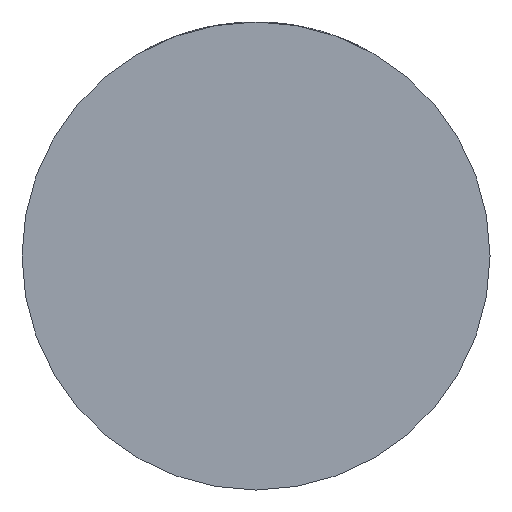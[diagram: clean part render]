
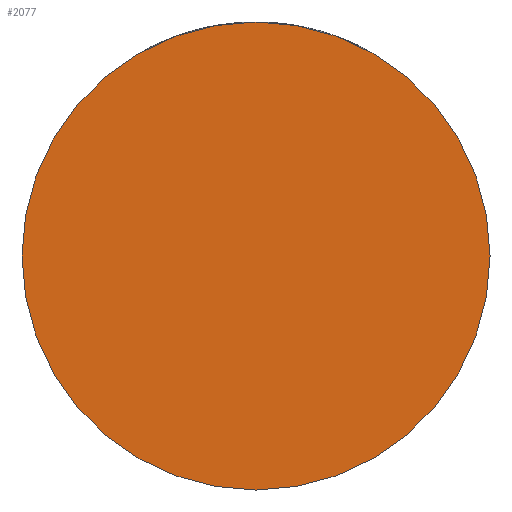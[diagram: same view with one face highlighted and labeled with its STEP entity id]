
A CAD part, front view. The second image highlights one B-rep face of the part: STEP entity #2077.
In plain terms, the highlighted planar face has unit normal (0, -1, 0).
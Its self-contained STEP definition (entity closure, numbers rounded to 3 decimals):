
#72 = DIRECTION ( 'NONE',  ( 1., 0., 0. ) ) ;
#138 = AXIS2_PLACEMENT_3D ( 'NONE', #1906, #1557, #4035 ) ;
#416 = CARTESIAN_POINT ( 'NONE',  ( 0., -42., 0. ) ) ;
#806 = CARTESIAN_POINT ( 'NONE',  ( 49., -42., 0. ) ) ;
#1108 = FACE_OUTER_BOUND ( 'NONE', #3201, .T. ) ;
#1557 = DIRECTION ( 'NONE',  ( 0., -1., 0. ) ) ;
#1747 = DIRECTION ( 'NONE',  ( 0., -1., 0. ) ) ;
#1765 = EDGE_CURVE ( 'NONE', #1905, #4353, #2939, .T. ) ;
#1817 = ORIENTED_EDGE ( 'NONE', *, *, #3921, .T. ) ;
#1905 = VERTEX_POINT ( 'NONE', #2913 ) ;
#1906 = CARTESIAN_POINT ( 'NONE',  ( 0., -42., 0. ) ) ;
#2077 = ADVANCED_FACE ( 'NONE', ( #1108 ), #2466, .T. ) ;
#2149 = CARTESIAN_POINT ( 'NONE',  ( 0., -42., 0. ) ) ;
#2466 = PLANE ( 'NONE',  #4479 ) ;
#2913 = CARTESIAN_POINT ( 'NONE',  ( -49., -42., 0. ) ) ;
#2939 = CIRCLE ( 'NONE', #138, 49. ) ;
#3201 = EDGE_LOOP ( 'NONE', ( #3945, #1817 ) ) ;
#3867 = AXIS2_PLACEMENT_3D ( 'NONE', #2149, #3907, #72 ) ;
#3907 = DIRECTION ( 'NONE',  ( 0., -1., 0. ) ) ;
#3921 = EDGE_CURVE ( 'NONE', #4353, #1905, #4077, .T. ) ;
#3931 = DIRECTION ( 'NONE',  ( 1., 0., 0. ) ) ;
#3945 = ORIENTED_EDGE ( 'NONE', *, *, #1765, .T. ) ;
#4035 = DIRECTION ( 'NONE',  ( 1., 0., 0. ) ) ;
#4077 = CIRCLE ( 'NONE', #3867, 49. ) ;
#4353 = VERTEX_POINT ( 'NONE', #806 ) ;
#4479 = AXIS2_PLACEMENT_3D ( 'NONE', #416, #1747, #3931 ) ;
